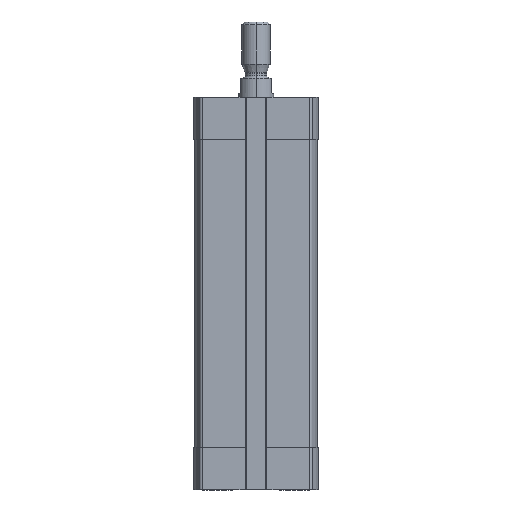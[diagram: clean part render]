
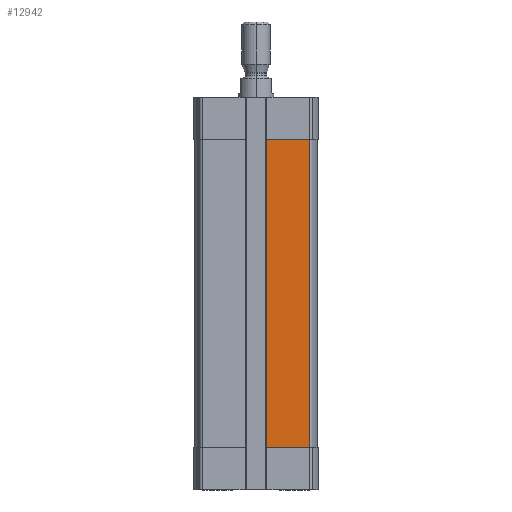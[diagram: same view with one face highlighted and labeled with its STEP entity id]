
A CAD part, left-side view. The second image highlights one B-rep face of the part: STEP entity #12942.
In plain terms, the highlighted planar face has unit normal (-1, 0, 0).
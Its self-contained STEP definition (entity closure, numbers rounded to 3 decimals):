
#145 = DIRECTION ( 'NONE',  ( 0., -1., 0. ) ) ;
#187 = CARTESIAN_POINT ( 'NONE',  ( -17.5, -3.1, -100. ) ) ;
#413 = ORIENTED_EDGE ( 'NONE', *, *, #11021, .T. ) ;
#759 = CARTESIAN_POINT ( 'NONE',  ( -17.5, -15.253, -12. ) ) ;
#1055 = EDGE_CURVE ( 'NONE', #10380, #11778, #3918, .T. ) ;
#1868 = ORIENTED_EDGE ( 'NONE', *, *, #8025, .T. ) ;
#2246 = DIRECTION ( 'NONE',  ( 0., 0., 1. ) ) ;
#3336 = ORIENTED_EDGE ( 'NONE', *, *, #4538, .T. ) ;
#3394 = DIRECTION ( 'NONE',  ( 0., 0., 1. ) ) ;
#3918 = LINE ( 'NONE', #5933, #9027 ) ;
#4329 = VECTOR ( 'NONE', #4456, 1000. ) ;
#4456 = DIRECTION ( 'NONE',  ( 0., 0., 1. ) ) ;
#4538 = EDGE_CURVE ( 'NONE', #10380, #6878, #11439, .T. ) ;
#4576 = LINE ( 'NONE', #10433, #9687 ) ;
#5933 = CARTESIAN_POINT ( 'NONE',  ( -17.5, -3.1, -100. ) ) ;
#5996 = VECTOR ( 'NONE', #145, 1000. ) ;
#6103 = CARTESIAN_POINT ( 'NONE',  ( -17.5, -15.253, -100. ) ) ;
#6878 = VERTEX_POINT ( 'NONE', #6103 ) ;
#8025 = EDGE_CURVE ( 'NONE', #6878, #10703, #11508, .T. ) ;
#8340 = FACE_OUTER_BOUND ( 'NONE', #9357, .T. ) ;
#8508 = CARTESIAN_POINT ( 'NONE',  ( -17.5, -3.1, -100. ) ) ;
#9027 = VECTOR ( 'NONE', #2246, 1000. ) ;
#9357 = EDGE_LOOP ( 'NONE', ( #3336, #1868, #413, #9888 ) ) ;
#9474 = PLANE ( 'NONE',  #11573 ) ;
#9509 = DIRECTION ( 'NONE',  ( -1., 0., 0. ) ) ;
#9687 = VECTOR ( 'NONE', #12444, 1000. ) ;
#9774 = CARTESIAN_POINT ( 'NONE',  ( -17.5, -3.1, -12. ) ) ;
#9888 = ORIENTED_EDGE ( 'NONE', *, *, #1055, .F. ) ;
#10380 = VERTEX_POINT ( 'NONE', #12391 ) ;
#10433 = CARTESIAN_POINT ( 'NONE',  ( -17.5, 0., -12. ) ) ;
#10587 = CARTESIAN_POINT ( 'NONE',  ( -17.5, -15.253, -100. ) ) ;
#10703 = VERTEX_POINT ( 'NONE', #759 ) ;
#11021 = EDGE_CURVE ( 'NONE', #10703, #11778, #4576, .T. ) ;
#11439 = LINE ( 'NONE', #187, #5996 ) ;
#11508 = LINE ( 'NONE', #10587, #4329 ) ;
#11573 = AXIS2_PLACEMENT_3D ( 'NONE', #8508, #9509, #3394 ) ;
#11778 = VERTEX_POINT ( 'NONE', #9774 ) ;
#12391 = CARTESIAN_POINT ( 'NONE',  ( -17.5, -3.1, -100. ) ) ;
#12444 = DIRECTION ( 'NONE',  ( 0., 1., 0. ) ) ;
#12942 = ADVANCED_FACE ( 'NONE', ( #8340 ), #9474, .T. ) ;
